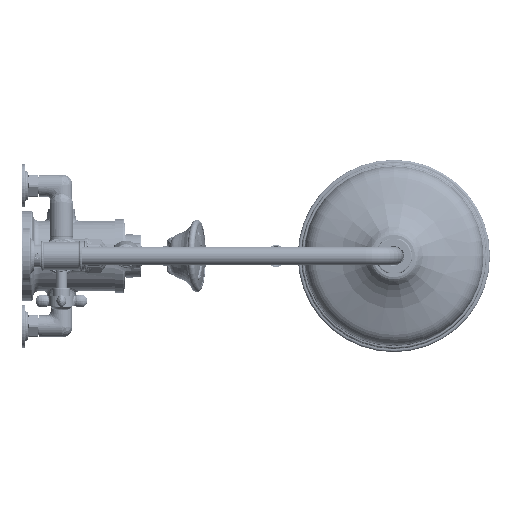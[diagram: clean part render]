
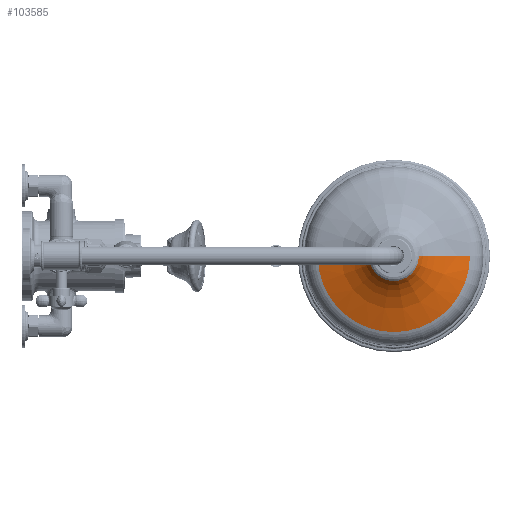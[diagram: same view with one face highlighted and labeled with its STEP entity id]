
A CAD part, left-side view. The second image highlights one B-rep face of the part: STEP entity #103585.
In plain terms, the highlighted face is a revolution surface.
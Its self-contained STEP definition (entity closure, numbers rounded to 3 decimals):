
#103416 = VERTEX_POINT('',#103417);
#103417 = CARTESIAN_POINT('',(-111.548,0.,
    58.631));
#103433 = VERTEX_POINT('',#103434);
#103434 = CARTESIAN_POINT('',(-164.922,0.,
    58.631));
#103519 = EDGE_CURVE('',#103416,#103433,#103520,.T.);
#103520 = CIRCLE('',#103521,26.687);
#103521 = AXIS2_PLACEMENT_3D('',#103522,#103523,#103524);
#103522 = CARTESIAN_POINT('',(-138.235,0.,
    58.631));
#103523 = DIRECTION('',(0.,0.,-1.));
#103524 = DIRECTION('',(1.,0.,0.));
#103585 = ADVANCED_FACE('',(#103586),#103614,.T.);
#103586 = FACE_BOUND('',#103587,.T.);
#103587 = EDGE_LOOP('',(#103588,#103597,#103606,#103613));
#103588 = ORIENTED_EDGE('',*,*,#103589,.F.);
#103589 = EDGE_CURVE('',#103590,#103433,#103592,.T.);
#103590 = VERTEX_POINT('',#103591);
#103591 = CARTESIAN_POINT('',(-219.501,0.,
    28.894));
#103592 = B_SPLINE_CURVE_WITH_KNOTS('',3,(#103593,#103594,#103595,
    #103596),.UNSPECIFIED.,.F.,.F.,(4,4),(0.,1.),
  .PIECEWISE_BEZIER_KNOTS.);
#103593 = CARTESIAN_POINT('',(-219.501,0.,
    28.894));
#103594 = CARTESIAN_POINT('',(-191.535,0.,
    37.049));
#103595 = CARTESIAN_POINT('',(-173.342,0.,
    46.962));
#103596 = CARTESIAN_POINT('',(-164.922,0.,
    58.631));
#103597 = ORIENTED_EDGE('',*,*,#103598,.T.);
#103598 = EDGE_CURVE('',#103590,#103599,#103601,.T.);
#103599 = VERTEX_POINT('',#103600);
#103600 = CARTESIAN_POINT('',(-56.969,0.,
    28.894));
#103601 = CIRCLE('',#103602,81.266);
#103602 = AXIS2_PLACEMENT_3D('',#103603,#103604,#103605);
#103603 = CARTESIAN_POINT('',(-138.235,0.,
    28.894));
#103604 = DIRECTION('',(0.,0.,1.));
#103605 = DIRECTION('',(-1.,0.,0.));
#103606 = ORIENTED_EDGE('',*,*,#103607,.F.);
#103607 = EDGE_CURVE('',#103416,#103599,#103608,.T.);
#103608 = B_SPLINE_CURVE_WITH_KNOTS('',3,(#103609,#103610,#103611,
    #103612),.UNSPECIFIED.,.F.,.F.,(4,4),(0.,1.),
  .PIECEWISE_BEZIER_KNOTS.);
#103609 = CARTESIAN_POINT('',(-111.548,0.,
    58.631));
#103610 = CARTESIAN_POINT('',(-103.128,0.,
    46.962));
#103611 = CARTESIAN_POINT('',(-84.935,0.,
    37.049));
#103612 = CARTESIAN_POINT('',(-56.969,0.,
    28.894));
#103613 = ORIENTED_EDGE('',*,*,#103519,.T.);
#103614 = SURFACE_OF_REVOLUTION('',#103615,#103621);
#103615 = B_SPLINE_CURVE_WITH_KNOTS('',3,(#103616,#103617,#103618,
    #103619,#103620),.UNSPECIFIED.,.F.,.F.,(4,1,4),(0.,
    0.014,1.),.UNSPECIFIED.);
#103616 = CARTESIAN_POINT('',(-164.557,0.,
    59.147));
#103617 = CARTESIAN_POINT('',(-164.676,0.,
    58.975));
#103618 = CARTESIAN_POINT('',(-173.134,0.,
    47.023));
#103619 = CARTESIAN_POINT('',(-191.799,0.,
    36.906));
#103620 = CARTESIAN_POINT('',(-220.111,0.,
    28.717));
#103621 = AXIS1_PLACEMENT('',#103622,#103623);
#103622 = CARTESIAN_POINT('',(-138.235,0.,
    43.763));
#103623 = DIRECTION('',(0.,0.,-1.));
